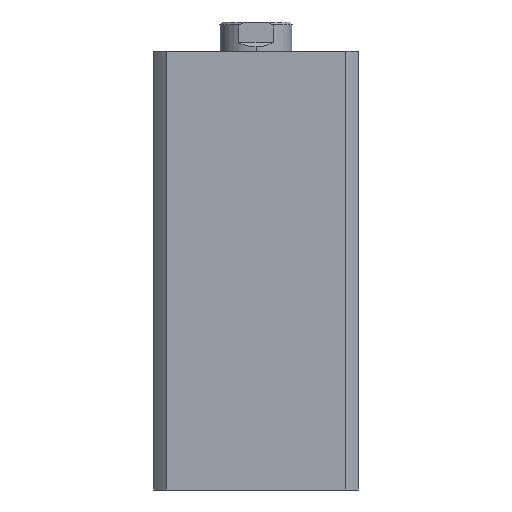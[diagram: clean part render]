
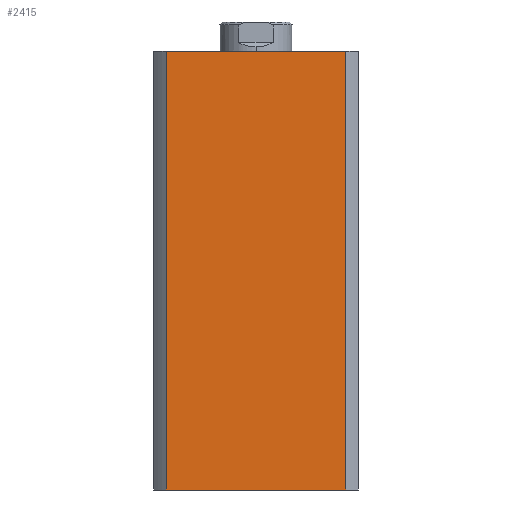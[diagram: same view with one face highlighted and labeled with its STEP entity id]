
A CAD part, left-side view. The second image highlights one B-rep face of the part: STEP entity #2415.
In plain terms, the highlighted planar face has unit normal (-1, 0, 0).
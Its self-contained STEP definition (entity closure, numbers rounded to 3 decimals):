
#52 = VERTEX_POINT ( 'NONE', #3053 ) ;
#54 = VERTEX_POINT ( 'NONE', #3055 ) ;
#126 = AXIS2_PLACEMENT_3D ( 'NONE', #2555, #2565, #2501 ) ;
#1025 = CARTESIAN_POINT ( 'NONE',  ( -35., -30.615, 0. ) ) ;
#1188 = EDGE_LOOP ( 'NONE', ( #3145, #3129, #3140, #3141 ) ) ;
#1402 = FACE_OUTER_BOUND ( 'NONE', #1188, .T. ) ;
#1552 = LINE ( 'NONE', #4896, #1557 ) ;
#1556 = LINE ( 'NONE', #4906, #1561 ) ;
#1557 = VECTOR ( 'NONE', #4900, 1000. ) ;
#1559 = LINE ( 'NONE', #4905, #1563 ) ;
#1561 = VECTOR ( 'NONE', #4901, 1000. ) ;
#1563 = VECTOR ( 'NONE', #4911, 1000. ) ;
#1591 = LINE ( 'NONE', #5049, #1593 ) ;
#1593 = VECTOR ( 'NONE', #5048, 1000. ) ;
#2344 = PLANE ( 'NONE',  #126 ) ;
#2415 = ADVANCED_FACE ( 'NONE', ( #1402 ), #2344, .F. ) ;
#2501 = DIRECTION ( 'NONE',  ( 0., 1., 0. ) ) ;
#2544 = VERTEX_POINT ( 'NONE', #4818 ) ;
#2555 = CARTESIAN_POINT ( 'NONE',  ( -35., 0., 150. ) ) ;
#2565 = DIRECTION ( 'NONE',  ( 1., 0., 0. ) ) ;
#2601 = EDGE_CURVE ( 'NONE', #52, #54, #1552, .T. ) ;
#2604 = EDGE_CURVE ( 'NONE', #2544, #3675, #1556, .T. ) ;
#2605 = EDGE_CURVE ( 'NONE', #54, #3675, #1559, .T. ) ;
#2631 = EDGE_CURVE ( 'NONE', #52, #2544, #1591, .T. ) ;
#3053 = CARTESIAN_POINT ( 'NONE',  ( -35., 30.615, 150. ) ) ;
#3055 = CARTESIAN_POINT ( 'NONE',  ( -35., 30.615, 0. ) ) ;
#3129 = ORIENTED_EDGE ( 'NONE', *, *, #2604, .F. ) ;
#3140 = ORIENTED_EDGE ( 'NONE', *, *, #2631, .F. ) ;
#3141 = ORIENTED_EDGE ( 'NONE', *, *, #2601, .T. ) ;
#3145 = ORIENTED_EDGE ( 'NONE', *, *, #2605, .T. ) ;
#3675 = VERTEX_POINT ( 'NONE', #1025 ) ;
#4818 = CARTESIAN_POINT ( 'NONE',  ( -35., -30.615, 150. ) ) ;
#4896 = CARTESIAN_POINT ( 'NONE',  ( -35., 30.615, 150. ) ) ;
#4900 = DIRECTION ( 'NONE',  ( 0., 0., -1. ) ) ;
#4901 = DIRECTION ( 'NONE',  ( 0., 0., -1. ) ) ;
#4905 = CARTESIAN_POINT ( 'NONE',  ( -35., 0., 0. ) ) ;
#4906 = CARTESIAN_POINT ( 'NONE',  ( -35., -30.615, 150. ) ) ;
#4911 = DIRECTION ( 'NONE',  ( 0., -1., 0. ) ) ;
#5048 = DIRECTION ( 'NONE',  ( 0., -1., 0. ) ) ;
#5049 = CARTESIAN_POINT ( 'NONE',  ( -35., 0., 150. ) ) ;
